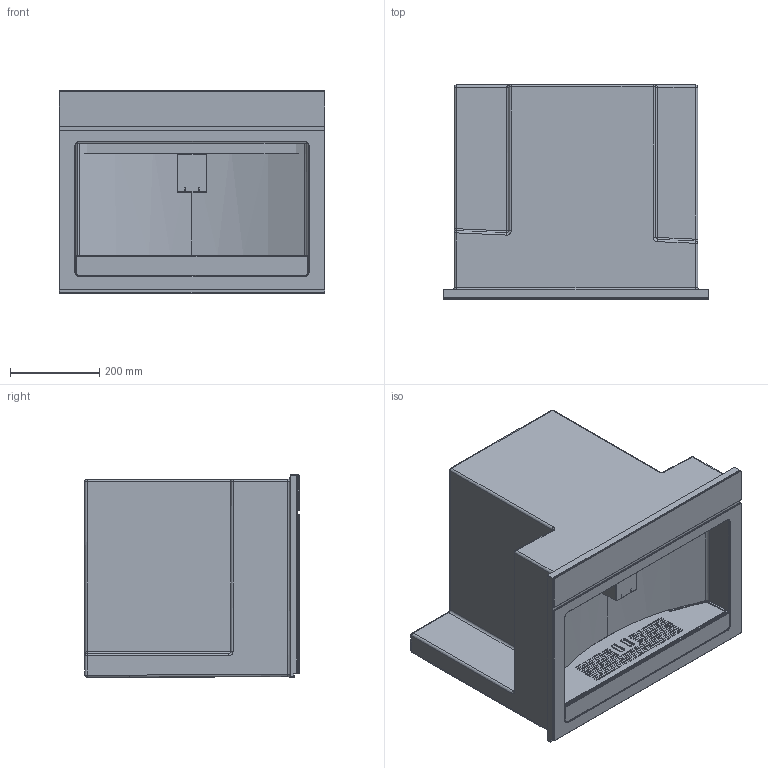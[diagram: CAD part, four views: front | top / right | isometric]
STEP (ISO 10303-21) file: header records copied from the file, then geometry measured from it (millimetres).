
FILE_DESCRIPTION(/* description */ (''),/* implementation_level */ '2;1');
FILE_NAME(/* name */ 'X2500500002-A',/* time_stamp */ '2022-12-05T13:43:52+01:00',/* author */ (''),/* organization */ (''),/* preprocessor_version */ 'ST-DEVELOPER v16.5',/* originating_system */ 'Rhino 7.24',/* authorisation */ '');
FILE_SCHEMA (('AUTOMOTIVE_DESIGN'));
Length unit declared in the file: millimetre
Products named in the file (1): Document
Bounding box: 594 x 480.25 x 453.86 mm (x, y, z)
Volume: 74316055.5 mm3; surface area: 2110433.2 mm2
Topology: 7 solids, 8 shells, 1434 faces, 4065 edges, 2623 vertices
Faces by surface type: cylinder 811, plane 477, bspline 146
Entity records: 56176 total; most frequent: CARTESIAN_POINT 20973, ORIENTED_EDGE 8036, EDGE_CURVE 4041, VERTEX_POINT 2623, B_SPLINE_CURVE_WITH_KNOTS 2329, EDGE_LOOP 1780, ADVANCED_FACE 1434, FACE_OUTER_BOUND 1434
